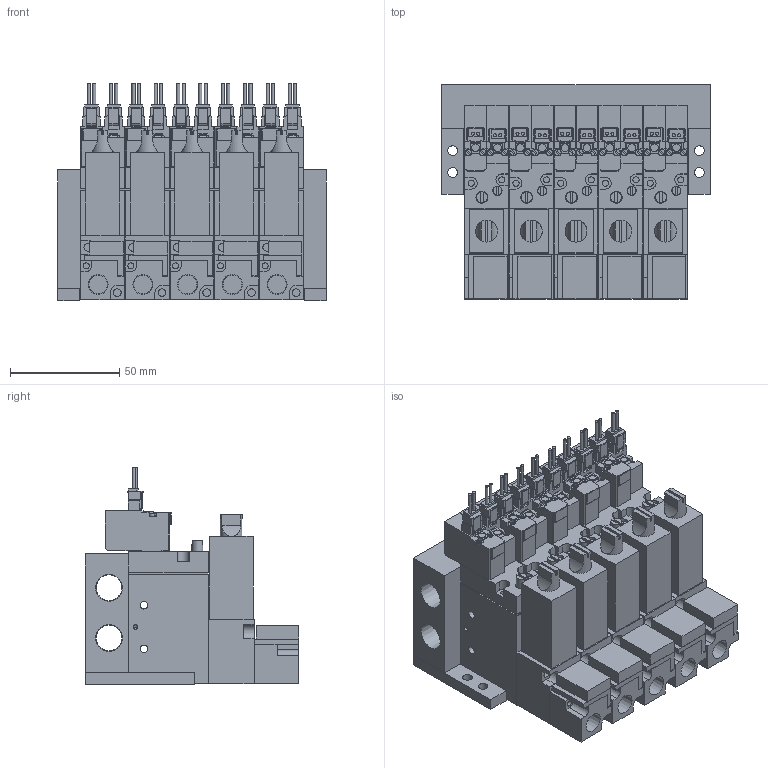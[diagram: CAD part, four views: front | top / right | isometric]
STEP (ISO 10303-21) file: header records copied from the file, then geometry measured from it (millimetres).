
FILE_DESCRIPTION(('STEP AP203'),'1');
FILE_NAME('BMPV32M2NZ25AL505.stp','2025-06-17T01:15:10',(' '),(' '),'Spatial InterOp 3D',' ',' ');
FILE_SCHEMA(('CONFIG_CONTROL_DESIGN'));
Length unit declared in the file: millimetre
Products named in the file (64): BMPV32M2NZ25AL505; S____; ___ ___2; ___-2(Rc); Filter Assy; __; _____; MB BRACKET; MB05; ___; upper plate-A; ______; ____; VACUUM VALVE FUNCTION MPV42-A; UV280-4E
Assembly tree (63 placements, depth 2):
  BMPV32M2NZ25AL505
    S____
    ___ ___2
    ___-2(Rc)
    Filter Assy
    __
    _____
    S____
    ___ ___2
    ___-2(Rc)
    Filter Assy
    __
    _____
    S____
    ___ ___2
    ___-2(Rc)
    Filter Assy
    __
    _____
    S____
    ___ ___2
    ___-2(Rc)
    Filter Assy
    __
    _____
    MB BRACKET
    MB05
    MB BRACKET
    S____
    ___ ___2
    ___-2(Rc)
    Filter Assy
    __
    _____
    ___
    upper plate-A
    ______
    ____
    VACUUM VALVE FUNCTION MPV42-A
    ___
    upper plate-A
    ______
    ____
    VACUUM VALVE FUNCTION MPV42-A
    ___
    upper plate-A
    ______
    ____
    VACUUM VALVE FUNCTION MPV42-A
    ___
    upper plate-A
    ______
    ____
    VACUUM VALVE FUNCTION MPV42-A
    ___
    upper plate-A
    ______
    ____
    VACUUM VALVE FUNCTION MPV42-A
    UV280-4E
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Bounding box: 123 x 98 x 99.75 mm (x, y, z)
Volume: 541391.5 mm3; surface area: 184808.7 mm2
Topology: 63 solids, 63 shells, 1842 faces, 4830 edges, 3199 vertices
Faces by surface type: plane 1491, cylinder 313, cone 38
Full cylindrical faces by diameter (mm): 1.4 x20, 1.8 x10, 2 x10, 2.5 x14, 2.8 x20, 3 x20, 3.5 x54, 4 x5, 4.2 x5, 4.5 x4, 5 x5, 5.5 x5, 6.5 x6, 8.522 x5, 11.776 x2
Entity records: 58255 total; most frequent: CARTESIAN_POINT 9948, DIRECTION 9105, ORIENTED_EDGE 9046, EDGE_CURVE 4523, LINE 3713, VECTOR 3713, VERTEX_POINT 3149, AXIS2_PLACEMENT_3D 2696
